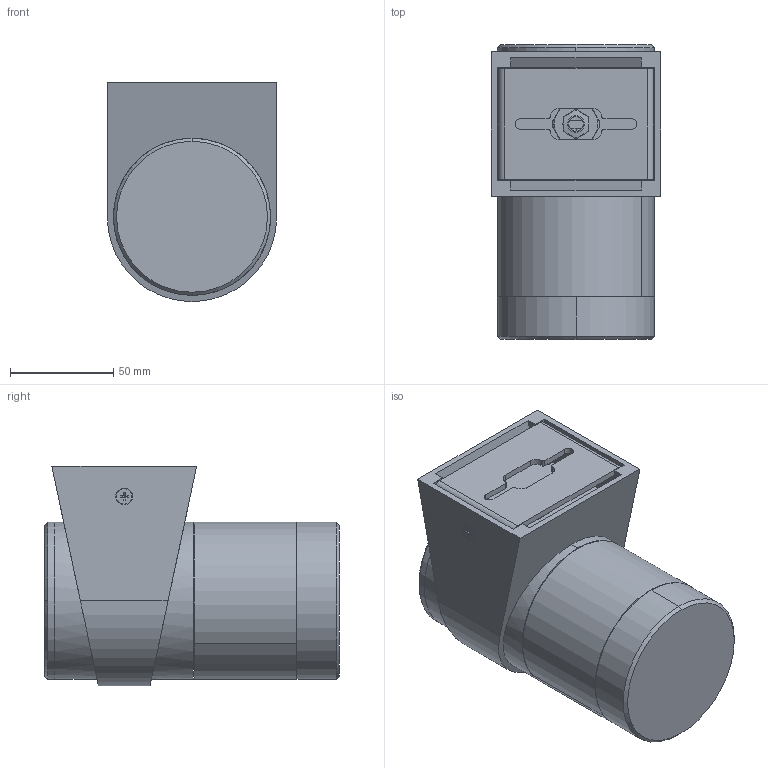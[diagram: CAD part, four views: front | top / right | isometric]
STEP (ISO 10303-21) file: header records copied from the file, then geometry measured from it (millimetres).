
FILE_DESCRIPTION((''),'2;1');
FILE_NAME('D7BD0125__ASM','2024-12-31T',('Administrator'),(''),'CREO PARAMETRIC BY PTC INC, 2014500','CREO PARAMETRIC BY PTC INC, 2014500','');
FILE_SCHEMA(('CONFIG_CONTROL_DESIGN'));
Length unit declared in the file: millimetre
Products named in the file (22): TOP_2_ANY; MZ_ANY; M4_1_ANY; DSGD_1_1_1_ANY; M3____Y_______V______2_ANY; R7BB0227_BA0128__20180108_ASM_A_ASM; ASD_16_1_1_ANY; ___Q_ASM_ANY_ASM; 33_ANY; FSQ_ANY; TOP_1_ANY; M2_5_ANY; M12A_1_ANY; DZ_ANY; GG_1_ANY; B3BB_1_1_1_2_3_ANY; 1202_ANY; FSQ-1_ANY; PC_1_ANY; 7BC015_1_1_1_1_2_3_ANY; D7BD0125_______J_O___N_ANY_ASM; D7BD0125__ASM
Assembly tree (29 placements, depth 5):
  D7BD0125__ASM
    D7BD0125_______J_O___N_ANY_ASM
      TOP_2_ANY
      MZ_ANY
      M4_1_ANY  x6
      ___Q_ASM_ANY_ASM
        DSGD_1_1_1_ANY
        R7BB0227_BA0128__20180108_ASM_A_ASM
          M3____Y_______V______2_ANY
        ASD_16_1_1_ANY
      33_ANY  x3
      FSQ_ANY
      TOP_1_ANY
      M2_5_ANY  x2
      M12A_1_ANY
      DZ_ANY
      GG_1_ANY
      B3BB_1_1_1_2_3_ANY
      1202_ANY
      FSQ-1_ANY
      PC_1_ANY
      7BC015_1_1_1_1_2_3_ANY
Bounding box: 82 x 142.59 x 106 mm (x, y, z)
Volume: 420805.4 mm3; surface area: 171056.1 mm2
Topology: 26 solids, 26 shells, 925 faces, 2442 edges, 1582 vertices
Faces by surface type: plane 364, cylinder 309, cone 133, bspline 78, torus 39, sphere 1, extrusion 1
Entity records: 34137 total; most frequent: CARTESIAN_POINT 17077, ORIENTED_EDGE 3598, DIRECTION 3362, EDGE_CURVE 1799, AXIS2_PLACEMENT_3D 1300, VERTEX_POINT 1198, EDGE_LOOP 765, VECTOR 762
